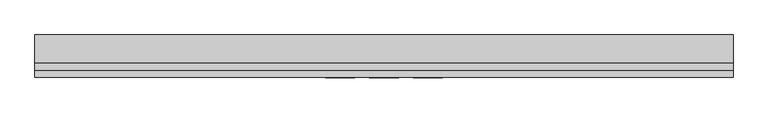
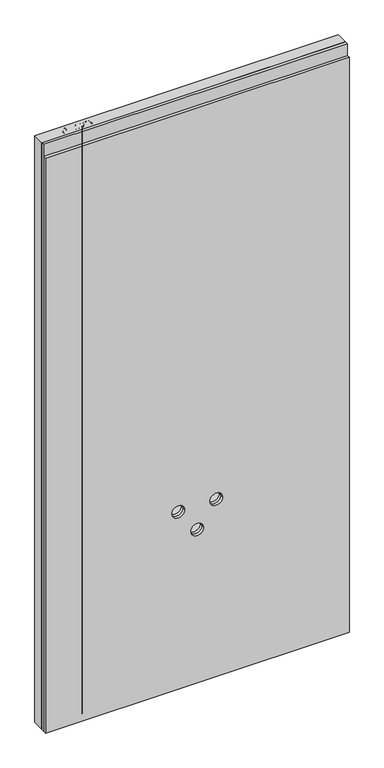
"""IFC4 building model written with IfcOpenShell, lengths in millimetres: proxy geometry, ParedeLavatório_Blufab : Parede Lavatório - Largura 120 cm."""

from ifc_helpers import new_model, si_unit, point, frame, frame_2d, origin, origin_with_axes, place, context, project, spatial, polyline, circle_curve, trimmed, segment, composite_curve, outline, extrude, source, transform, mapped, element, save


def generic_models_cf899abb(model_context):
    return source(origin(), model_context, "Body", "SweptSolid", [
        extrude(outline(polyline([(2450.0, 1200.0), (2450.0, 0.0), (0.0, 0.0), (0.0, 1200.0), (2450.0, 1200.0)]), holes=[composite_curve([segment(trimmed(circle_curve(frame_2d((640.0, 600.0)), 25.0), [point((640.0, 625.0))], [point((640.0, 575.0))], True, "CARTESIAN"), True, "CONTINUOUS"), segment(trimmed(circle_curve(frame_2d((640.0, 600.0)), 25.0), [point((640.0, 575.0))], [point((640.0, 625.0))], True, "CARTESIAN"), True, "CONTINUOUS")], self_intersect=False), composite_curve([segment(trimmed(circle_curve(frame_2d((740.0, 675.0)), 25.0), [point((740.0, 700.0))], [point((740.0, 650.0))], True, "CARTESIAN"), True, "CONTINUOUS"), segment(trimmed(circle_curve(frame_2d((740.0, 675.0)), 25.0), [point((740.0, 650.0))], [point((740.0, 700.0))], True, "CARTESIAN"), True, "CONTINUOUS")], self_intersect=False), composite_curve([segment(trimmed(circle_curve(frame_2d((740.0, 525.0)), 25.0), [point((740.0, 550.0))], [point((740.0, 500.0))], True, "CARTESIAN"), True, "CONTINUOUS"), segment(trimmed(circle_curve(frame_2d((740.0, 525.0)), 25.0), [point((740.0, 500.0))], [point((740.0, 550.0))], True, "CARTESIAN"), True, "CONTINUOUS")], self_intersect=False)]), frame((0.0, 25.0126803, 0.0), z_axis=(0.0, 1.0, 0.0), x_axis=(0.0, 0.0, 1.0)), (0.0, 0.0, 1.0), 47.9873197),
        extrude(outline(polyline([(2450.0, 1200.0), (2450.0, 0.0), (0.0, 0.0), (0.0, 1200.0), (2450.0, 1200.0)]), holes=[composite_curve([segment(trimmed(circle_curve(frame_2d((640.0, 600.0)), 25.0), [point((640.0, 625.0))], [point((640.0, 575.0))], True, "CARTESIAN"), True, "CONTINUOUS"), segment(trimmed(circle_curve(frame_2d((640.0, 600.0)), 25.0), [point((640.0, 575.0))], [point((640.0, 625.0))], True, "CARTESIAN"), True, "CONTINUOUS")], self_intersect=False), composite_curve([segment(trimmed(circle_curve(frame_2d((740.0, 675.0)), 25.0), [point((740.0, 700.0))], [point((740.0, 650.0))], True, "CARTESIAN"), True, "CONTINUOUS"), segment(trimmed(circle_curve(frame_2d((740.0, 675.0)), 25.0), [point((740.0, 650.0))], [point((740.0, 700.0))], True, "CARTESIAN"), True, "CONTINUOUS")], self_intersect=False), composite_curve([segment(trimmed(circle_curve(frame_2d((740.0, 525.0)), 25.0), [point((740.0, 550.0))], [point((740.0, 500.0))], True, "CARTESIAN"), True, "CONTINUOUS"), segment(trimmed(circle_curve(frame_2d((740.0, 525.0)), 25.0), [point((740.0, 500.0))], [point((740.0, 550.0))], True, "CARTESIAN"), True, "CONTINUOUS")], self_intersect=False)]), frame((0.0, 12.5126803, 0.0), z_axis=(0.0, 1.0, 0.0), x_axis=(0.0, 0.0, 1.0)), (0.0, 0.0, 1.0), 12.5),
        extrude(outline(polyline([(2400.0, 1200.0), (2400.0, 0.0), (0.0, 0.0), (0.0, 1200.0), (2400.0, 1200.0)]), holes=[composite_curve([segment(trimmed(circle_curve(frame_2d((640.0, 600.0)), 25.0), [point((640.0, 625.0))], [point((640.0, 575.0))], True, "CARTESIAN"), True, "CONTINUOUS"), segment(trimmed(circle_curve(frame_2d((640.0, 600.0)), 25.0), [point((640.0, 575.0))], [point((640.0, 625.0))], True, "CARTESIAN"), True, "CONTINUOUS")], self_intersect=False), composite_curve([segment(trimmed(circle_curve(frame_2d((740.0, 675.0)), 25.0), [point((740.0, 700.0))], [point((740.0, 650.0))], True, "CARTESIAN"), True, "CONTINUOUS"), segment(trimmed(circle_curve(frame_2d((740.0, 675.0)), 25.0), [point((740.0, 650.0))], [point((740.0, 700.0))], True, "CARTESIAN"), True, "CONTINUOUS")], self_intersect=False), composite_curve([segment(trimmed(circle_curve(frame_2d((740.0, 525.0)), 25.0), [point((740.0, 550.0))], [point((740.0, 500.0))], True, "CARTESIAN"), True, "CONTINUOUS"), segment(trimmed(circle_curve(frame_2d((740.0, 525.0)), 25.0), [point((740.0, 500.0))], [point((740.0, 550.0))], True, "CARTESIAN"), True, "CONTINUOUS")], self_intersect=False)]), frame((0.0, 0.0, 0.0), z_axis=(0.0, 1.0, 0.0), x_axis=(0.0, 0.0, 1.0)), (0.0, 0.0, 1.0), 12.5),
        extrude(outline(polyline([(93.2578811, 34.0063401), (93.2578811, 64.1432332), (104.4267784, 64.1432332), (108.9296541, 63.8562852), (112.5900799, 62.4472972), (114.9629188, 59.5336718), (115.8605508, 55.4244299), (113.4362085, 48.9129186), (104.6842958, 46.2494529), (97.0249927, 46.2494529), (97.0249927, 34.0063401), (93.2578811, 34.0063401)]), holes=[polyline([(97.0249927, 50.0165646), (104.905025, 50.0165646), (110.4526855, 51.3998009), (112.0934392, 55.2919924), (111.1259096, 58.4116317), (108.583845, 60.1186041), (104.8167334, 60.3761215), (97.0249927, 60.3761215), (97.0249927, 50.0165646)])]), origin_with_axes(), (0.0, 0.0, 1.0), 2450.0),
        extrude(outline(polyline([(121.0403293, 34.0063401), (121.0403293, 64.1432332), (124.807441, 64.1432332), (124.807441, 37.7734518), (139.8758875, 37.7734518), (139.8758875, 34.0063401), (121.0403293, 34.0063401)])), origin_with_axes(), (0.0, 0.0, 1.0), 2450.0),
        extrude(outline(polyline([(156.8278898, 34.0063401), (153.0607782, 34.0063401), (153.0607782, 57.4919267), (149.4923228, 54.9498621), (145.5265549, 53.0479122), (145.5265549, 56.6090099), (151.0484637, 60.1333194), (154.3998687, 64.1432332), (156.8278898, 64.1432332), (156.8278898, 34.0063401)])), origin_with_axes(), (0.0, 0.0, 1.0), 2450.0),
        extrude(outline(polyline([(185.0812271, 37.7734518), (185.0812271, 34.0063401), (165.303891, 34.0063401), (165.7085612, 36.603587), (167.9967872, 40.6024643), (172.7130344, 44.9692236), (179.2171881, 51.2452904), (180.8432265, 55.5127216), (179.3091586, 58.9671335), (175.3029236, 60.3761215), (171.127463, 59.0002429), (169.5418916, 55.1963431), (165.77478, 55.667232), (168.6626536, 61.9727294), (175.3838577, 64.1432332), (182.1271346, 61.7299273), (184.6103381, 55.7408084), (183.9407929, 52.1686742), (181.7151068, 48.475139), (176.3182779, 43.3137546), (171.984628, 39.690117), (170.2850132, 37.7734518), (185.0812271, 37.7734518)])), origin_with_axes(), (0.0, 0.0, 1.0), 2450.0),
        extrude(outline(polyline([(188.8483387, 48.8319845), (189.9556635, 57.5029632), (193.2445285, 62.5024795), (198.7370067, 64.1432332), (203.1368754, 63.1720247), (206.1755807, 60.3724427), (207.9414142, 55.9137129), (208.6256748, 48.8319845), (207.5293864, 40.1977941), (204.2515578, 35.1872413), (198.7370067, 33.5354512), (191.8502558, 36.4049307), (188.8483387, 48.8319845)]), holes=[polyline([(192.6154503, 48.8393422), (194.3812839, 39.484103), (198.7370067, 37.3025628), (203.0927295, 39.4914607), (204.8585631, 48.8393422), (203.1515907, 58.0878955), (198.6928609, 60.3761215), (194.440145, 58.3601282), (192.6154503, 48.8393422)])]), origin_with_axes(), (0.0, 0.0, 1.0), 2450.0),
    ])


if __name__ == "__main__":
    model = new_model("IFC4")
    model_context = context("Model", 3, world=origin())
    ifc_project = project(units=[si_unit("LENGTHUNIT", "METRE", prefix="MILLI")], contexts=[model_context])
    site = spatial("IfcSite", under=ifc_project)
    building = spatial("IfcBuilding", under=site)
    placement = place(None, origin())
    generic_models_shape = generic_models_cf899abb(model_context)
    element("IfcBuildingElementProxy", 1, Name="ParedeLavatório_Blufab : Parede Lavatório - Largura 120 cm", ObjectType="ParedeLavatório_Blufab : Parede Lavatório - Largura 120 cm", at=placement, inside=building, context=model_context, shape_type="MappedRepresentation", body=[
        mapped(generic_models_shape, transform((0.0, 0.0, 0.0), x_axis=(1.0, 0.0, 0.0), y_axis=(0.0, 1.0, 0.0), z_axis=(0.0, 0.0, 1.0))),
    ])
    save(model, "model.ifc")
